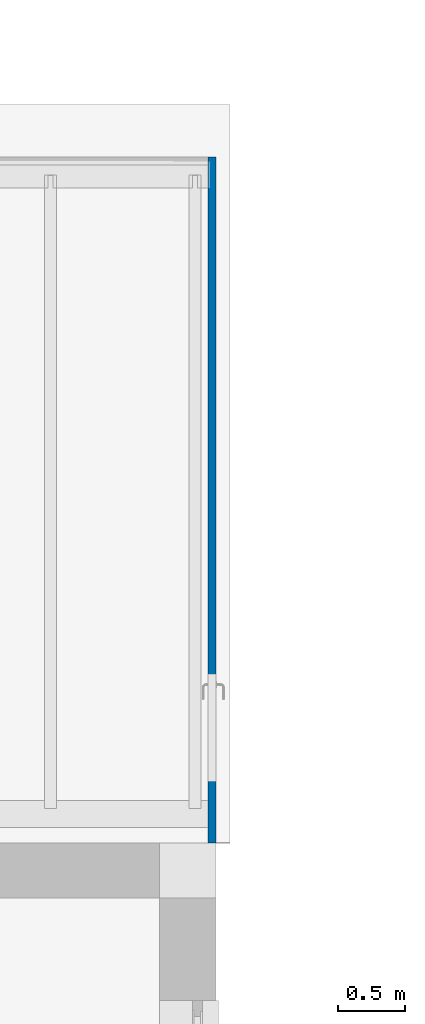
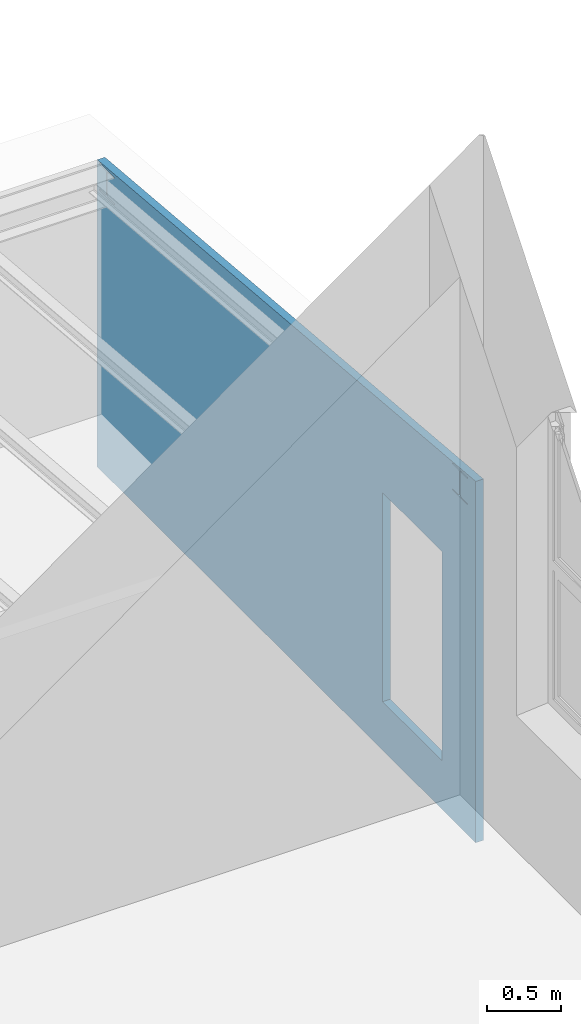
# One storey, part 173 of 301: 1 wall, 1 opening.
"""IFC2X3 building model written with IfcOpenShell, lengths in millimetres."""

from ifc_helpers import new_model, entity, si_unit, converted_unit, derived_unit, money_unit, direction, frame, origin_with_axes, place, context, subcontext, project, spatial, faceted_brep, material, type_object, element, save


model = new_model("IFC2X3")

# Units and contexts
model_context = context("Model", 3, precision=0.01, world=origin_with_axes(), true_north=direction((0.0, 1.0)))
body_context = subcontext(model_context, "Body", "Model", "MODEL_VIEW")
ifc_project = project(units=[si_unit("LENGTHUNIT", "METRE", prefix="MILLI"), si_unit("AREAUNIT", "SQUARE_METRE"), si_unit("VOLUMEUNIT", "CUBIC_METRE"), converted_unit("PLANEANGLEUNIT", "DEGREE", entity("IfcPlaneAngleMeasure", 0.0174532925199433), si_unit("PLANEANGLEUNIT", "RADIAN"), dimensions=[0, 0, 0, 0, 0, 0, 0]), money_unit("EUR"), converted_unit("TIMEUNIT", "Year", entity("IfcTimeMeasure", 31557600.0), si_unit("TIMEUNIT", "SECOND"), dimensions=[0, 0, 1, 0, 0, 0, 0]), si_unit("MASSUNIT", "GRAM", prefix="KILO"), si_unit("THERMODYNAMICTEMPERATUREUNIT", "DEGREE_CELSIUS"), si_unit("LUMINOUSINTENSITYUNIT", "LUMEN"), si_unit("ENERGYUNIT", "JOULE", prefix="MEGA"), derived_unit("THERMALCONDUCTANCEUNIT", [(si_unit("POWERUNIT", "WATT"), 1), (si_unit("LENGTHUNIT", "METRE"), -1), (si_unit("THERMODYNAMICTEMPERATUREUNIT", "KELVIN"), -1)]), derived_unit("SPECIFICHEATCAPACITYUNIT", [(si_unit("ENERGYUNIT", "JOULE"), 1), (si_unit("MASSUNIT", "GRAM", prefix="KILO"), -1), (si_unit("THERMODYNAMICTEMPERATUREUNIT", "KELVIN"), -1)]), derived_unit("MASSDENSITYUNIT", [(si_unit("MASSUNIT", "GRAM", prefix="KILO"), 1), (si_unit("VOLUMEUNIT", "CUBIC_METRE"), -1)])], contexts=[model_context])

# Site, building, storey
site_placement = place(None, frame((0.0, 0.0, 8650.0), z_axis=(0.0, 0.0, 1.0), x_axis=(1.0, 0.0, 0.0)))
site = spatial("IfcSite", under=ifc_project, at=site_placement, Name="43301:001:0844", CompositionType="ELEMENT")
building_placement = place(site_placement, origin_with_axes())
building = spatial("IfcBuilding", under=site, at=building_placement, Name="Kuressaare Ametikooli tuulikute mehaanikute õppekorpus", CompositionType="ELEMENT")
storey_placement = place(building_placement, origin_with_axes())
storey = spatial("IfcBuildingStorey", under=building, at=storey_placement, Name="1.korrus", CompositionType="ELEMENT", Elevation=0.0)

# Wall, opening
ifc_material = material(Name="GENEERILINE - KONSTRUKTRIOON")
wall_type = type_object("IfcWallType", Name="GENEERILINE - KONSTRUKTRIOON 60", PredefinedType="NOTDEFINED")
wall_placement = place(storey_placement, frame((103647.5122070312, 127842.1249389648, -1100.0), z_axis=(0.0, 0.0, 1.0), x_axis=(0.0, -1.0, 0.0)))
wall = element("IfcWall", 1, at=wall_placement, inside=storey, type_object=wall_type, material=ifc_material, Name="VS-XX", context=body_context, shape_type="Brep", body=[
    faceted_brep([(0.0, -60.00000000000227, 0.0), (5102.802180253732, -60.00000000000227, 0.0), (5102.802180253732, -60.00000000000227, 2974.067271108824), (0.0, -60.00000000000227, 2527.629945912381), (127.5821888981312, -60.00000000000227, 2323.182089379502), (127.5821888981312, -60.00000000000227, 2492.182089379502), (125.1706448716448, -60.00000000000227, 2501.182089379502), (118.5821840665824, -60.00000000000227, 2507.770546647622), (109.5821792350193, -60.00000000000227, 2510.182089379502), (30.83213695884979, -60.00000000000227, 2510.182089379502), (30.83213695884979, -60.00000000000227, 2520.182089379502), (230.8322443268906, -60.00000000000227, 2520.182089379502), (230.8322443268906, -60.00000000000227, 2510.182089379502), (152.0822020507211, -60.00000000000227, 2510.182089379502), (143.082197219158, -60.00000000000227, 2507.770546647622), (136.4937364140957, -60.00000000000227, 2501.182089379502), (134.082192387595, -60.00000000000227, 2492.182089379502), (134.082192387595, -60.00000000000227, 2323.182089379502), (136.4937364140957, -60.00000000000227, 2314.182089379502), (143.082197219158, -60.00000000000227, 2307.593632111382), (152.0822020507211, -60.00000000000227, 2305.182089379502), (230.8322443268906, -60.00000000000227, 2305.182089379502), (230.8322443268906, -60.00000000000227, 2295.182089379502), (30.83213695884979, -60.00000000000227, 2295.182089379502), (30.83213695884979, -60.00000000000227, 2305.182089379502), (109.5821792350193, -60.00000000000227, 2305.182089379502), (118.5821840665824, -60.00000000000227, 2307.593632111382), (125.1706448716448, -60.00000000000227, 2314.182089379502), (4886.097885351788, -60.00000000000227, 2743.182089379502), (4886.097885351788, -60.00000000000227, 2912.182089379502), (4883.686341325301, -60.00000000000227, 2921.182089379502), (4877.097880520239, -60.00000000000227, 2927.770546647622), (4868.097875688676, -60.00000000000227, 2930.182089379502), (4789.347833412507, -60.00000000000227, 2930.182089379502), (4789.347833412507, -60.00000000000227, 2940.182089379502), (4989.347940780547, -60.00000000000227, 2940.182089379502), (4989.347940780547, -60.00000000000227, 2930.182089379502), (4910.597898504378, -60.00000000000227, 2930.182089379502), (4901.597893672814, -60.00000000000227, 2927.770546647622), (4895.009432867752, -60.00000000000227, 2921.182089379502), (4892.597888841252, -60.00000000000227, 2912.182089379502), (4892.597888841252, -60.00000000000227, 2743.182089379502), (4895.009432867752, -60.00000000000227, 2734.182089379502), (4901.597893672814, -60.00000000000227, 2727.593632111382), (4910.597898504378, -60.00000000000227, 2725.182089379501), (4989.347940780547, -60.00000000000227, 2725.182089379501), (4989.347940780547, -60.00000000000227, 2715.182089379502), (4789.347833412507, -60.00000000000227, 2715.182089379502), (4789.347833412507, -60.00000000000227, 2725.182089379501), (4868.097875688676, -60.00000000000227, 2725.182089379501), (4877.097880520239, -60.00000000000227, 2727.593632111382), (4883.686341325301, -60.00000000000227, 2734.182089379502), (4646.835327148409, -60.00000000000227, 400.0), (3846.835327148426, -60.00000000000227, 400.0), (3846.835327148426, -60.00000000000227, 2120.0), (4646.835327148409, -60.00000000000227, 2120.0), (0.0, 0.0, 0.0), (5102.818809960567, 0.0, 0.0), (5102.818809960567, 0.0, 2974.070207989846), (0.0, 0.0, 2527.631427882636), (127.5973221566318, -45.39522530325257, 2323.182089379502), (127.5973221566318, -45.39522530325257, 2492.182089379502), (125.185780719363, -45.39272649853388, 2501.182089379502), (118.5973269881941, -45.38589963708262, 2507.770546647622), (109.5973318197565, -45.37657397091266, 2510.182089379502), (30.84737409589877, -45.29497439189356, 2510.182089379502), (30.84737409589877, -45.29497439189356, 2520.182089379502), (230.8472667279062, -45.5022114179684, 2520.182089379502), (230.8472667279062, -45.5022114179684, 2510.182089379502), (152.0973090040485, -45.4206118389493, 2510.182089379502), (143.0973138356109, -45.41128617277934, 2507.770546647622), (136.508860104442, -45.40445931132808, 2501.182089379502), (134.0973186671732, -45.40196050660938, 2492.182089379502), (134.0973186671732, -45.40196050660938, 2323.182089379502), (136.508860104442, -45.40445931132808, 2314.182089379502), (143.0973138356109, -45.41128617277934, 2307.593632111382), (152.0973090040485, -45.4206118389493, 2305.182089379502), (230.8472667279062, -45.5022114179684, 2305.182089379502), (230.8472667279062, -45.5022114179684, 2295.182089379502), (30.84737409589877, -45.29497439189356, 2295.182089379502), (30.84737409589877, -45.29497439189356, 2305.182089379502), (109.5973318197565, -45.37657397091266, 2305.182089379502), (118.5973269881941, -45.38589963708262, 2307.593632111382), (125.185780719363, -45.39272649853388, 2314.182089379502), (4886.113018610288, -45.39522530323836, 2743.182089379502), (4886.113018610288, -45.39522530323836, 2912.182089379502), (4883.701477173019, -45.39272649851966, 2921.182089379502), (4877.113023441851, -45.38589963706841, 2927.770546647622), (4868.113028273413, -45.37657397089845, 2930.182089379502), (4789.363070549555, -45.29497439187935, 2930.182089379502), (4789.363070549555, -45.29497439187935, 2940.182089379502), (4989.362963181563, -45.50221141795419, 2940.182089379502), (4989.362963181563, -45.50221141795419, 2930.182089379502), (4910.613005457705, -45.42061183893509, 2930.182089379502), (4901.613010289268, -45.41128617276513, 2927.770546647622), (4895.024556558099, -45.40445931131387, 2921.182089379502), (4892.61301512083, -45.40196050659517, 2912.182089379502), (4892.61301512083, -45.40196050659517, 2743.182089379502), (4895.024556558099, -45.40445931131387, 2734.182089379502), (4901.613010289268, -45.41128617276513, 2727.593632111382), (4910.613005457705, -45.42061183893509, 2725.182089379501), (4989.362963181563, -45.50221141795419, 2725.182089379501), (4989.362963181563, -45.50221141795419, 2715.182089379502), (4789.363070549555, -45.29497439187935, 2715.182089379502), (4789.363070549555, -45.29497439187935, 2725.182089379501), (4868.113028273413, -45.37657397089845, 2725.182089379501), (4877.113023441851, -45.38589963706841, 2727.593632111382), (4883.701477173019, -45.39272649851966, 2734.182089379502), (4646.835327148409, 0.0, 400.0), (3846.835327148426, 0.0, 400.0), (3846.835327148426, 0.0, 2120.0), (4646.835327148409, 0.0, 2120.0)], [[[0, 1, 2, 3], [4, 5, 6, 7, 8, 9, 10, 11, 12, 13, 14, 15, 16, 17, 18, 19, 20, 21, 22, 23, 24, 25, 26, 27], [28, 29, 30, 31, 32, 33, 34, 35, 36, 37, 38, 39, 40, 41, 42, 43, 44, 45, 46, 47, 48, 49, 50, 51], [52, 53, 54, 55]], [[56, 57, 1, 0]], [[58, 2, 1, 57]], [[58, 59, 3, 2]], [[3, 59, 56, 0]], [[5, 4, 60, 61]], [[6, 5, 61, 62]], [[7, 6, 62, 63]], [[8, 7, 63, 64]], [[9, 8, 64, 65]], [[10, 9, 65, 66]], [[11, 10, 66, 67]], [[12, 11, 67, 68]], [[13, 12, 68, 69]], [[14, 13, 69, 70]], [[15, 14, 70, 71]], [[16, 15, 71, 72]], [[17, 16, 72, 73]], [[18, 17, 73, 74]], [[19, 18, 74, 75]], [[20, 19, 75, 76]], [[21, 20, 76, 77]], [[22, 21, 77, 78]], [[23, 22, 78, 79]], [[24, 23, 79, 80]], [[25, 24, 80, 81]], [[26, 25, 81, 82]], [[27, 26, 82, 83]], [[4, 27, 83, 60]], [[29, 28, 84, 85]], [[30, 29, 85, 86]], [[31, 30, 86, 87]], [[32, 31, 87, 88]], [[33, 32, 88, 89]], [[34, 33, 89, 90]], [[35, 34, 90, 91]], [[36, 35, 91, 92]], [[37, 36, 92, 93]], [[38, 37, 93, 94]], [[39, 38, 94, 95]], [[40, 39, 95, 96]], [[41, 40, 96, 97]], [[42, 41, 97, 98]], [[43, 42, 98, 99]], [[44, 43, 99, 100]], [[45, 44, 100, 101]], [[46, 45, 101, 102]], [[47, 46, 102, 103]], [[48, 47, 103, 104]], [[49, 48, 104, 105]], [[50, 49, 105, 106]], [[51, 50, 106, 107]], [[28, 51, 107, 84]], [[108, 109, 53, 52]], [[109, 110, 54, 53]], [[110, 111, 55, 54]], [[111, 108, 52, 55]], [[57, 56, 59, 58], [108, 111, 110, 109]], [[71, 70, 69, 68, 67, 66, 65, 64, 63, 62, 61, 60, 83, 82, 81, 80, 79, 78, 77, 76, 75, 74, 73, 72]], [[95, 94, 93, 92, 91, 90, 89, 88, 87, 86, 85, 84, 107, 106, 105, 104, 103, 102, 101, 100, 99, 98, 97, 96]]]),
])
opening_placement = place(wall_placement, frame((4246.835327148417, 0.0, 399.9999999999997), z_axis=(0.0, 0.0, 1.0), x_axis=(1.0, 0.0, 0.0)))
element("IfcOpeningElement", 2, at=opening_placement, cuts=wall, context=body_context, shape_type="Brep", body=[
    faceted_brep([(-399.9999999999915, -61.00000000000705, 1720.0), (-399.9999999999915, -61.00000000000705, 0.0), (399.9999999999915, -61.00000000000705, 0.0), (399.9999999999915, -61.00000000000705, 1720.0), (-399.9999999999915, 1.000000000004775, 1720.0), (-399.9999999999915, 1.000000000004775, 0.0), (399.9999999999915, 1.000000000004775, 0.0), (399.9999999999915, 1.000000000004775, 1720.0)], [[[0, 1, 2, 3]], [[4, 5, 1, 0]], [[5, 6, 2, 1]], [[6, 7, 3, 2]], [[7, 4, 0, 3]], [[6, 5, 4, 7]]]),
])

save(model, "model.ifc")
